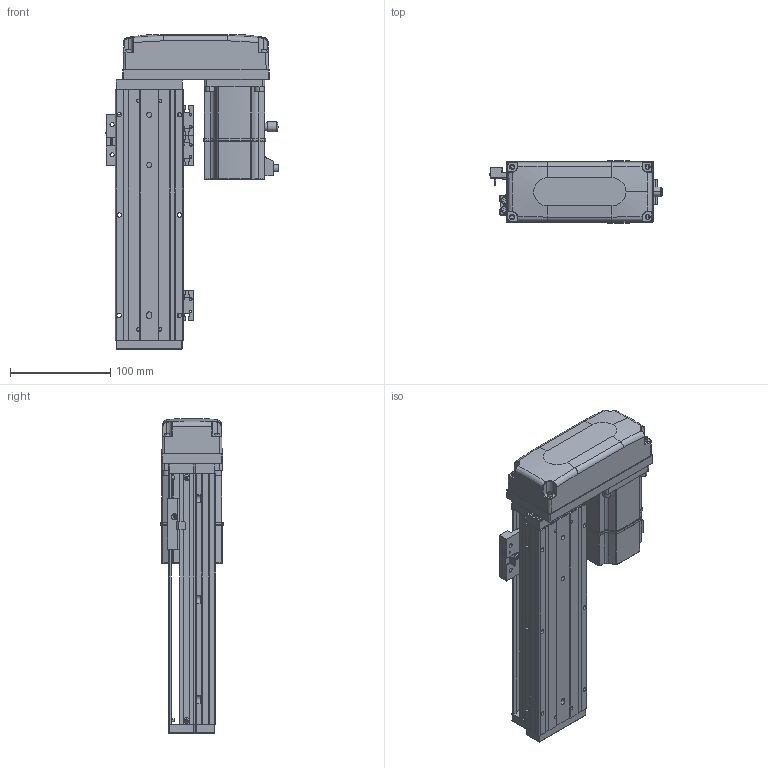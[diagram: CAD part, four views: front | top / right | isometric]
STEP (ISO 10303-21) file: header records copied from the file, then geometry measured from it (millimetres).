
FILE_DESCRIPTION (( 'STEP AP203' ), '1' );
FILE_NAME ('KTHA60-150-BL-M20-C4L.step', '2022-12-16T01:31:28', ( '微软用户' ), ( '微软中国' ), 'SwSTEP 2.0', 'SolidWorks 2020', '' );
FILE_SCHEMA (( 'CONFIG_CONTROL_DESIGN' ));
Length unit declared in the file: millimetre
Products named in the file (17): EE_SX911P_R; KTHA60-002; CTHA60-017; BTH80-026; KTHA60-001_250; CTHA60-021; CTHA60-006-2_CTHA60-006-2; KTHA60-004; GBT 70.1-M4×16; _X2_4E0983F1_X0_200W_1; KTHA60-005; GBT77-2000M3-3; KTHA60-150-BL-M20-C4L; GB¨uT 70.2-M3¡Á5_M3¡Á6; GBT 70.1-M3℅6; GBT 70.3-M3℅6; CTHA60-016
Assembly tree (51 placements, depth 2):
  KTHA60-150-BL-M20-C4L
    KTHA60-001_250
    KTHA60-004
    KTHA60-005
    GB¨uT 70.2-M3¡Á5_M3¡Á6  x6
    GBT 70.3-M3℅6  x4
    EE_SX911P_R  x3
    CTHA60-017  x3
    CTHA60-021  x2
    GBT 70.1-M4×16  x8
    GBT77-2000M3-3  x6
    GBT 70.1-M3℅6  x10
    CTHA60-016  x2
    KTHA60-002
    BTH80-026
    CTHA60-006-2_CTHA60-006-2
    _X2_4E0983F1_X0_200W_1
Bounding box: 172.1 x 62.42 x 314 mm (x, y, z)
Volume: 947958.2 mm3; surface area: 249586 mm2
Topology: 54 solids, 54 shells, 2368 faces, 5605 edges, 3442 vertices
Faces by surface type: plane 1249, cylinder 626, cone 276, bspline 109, torus 92, sphere 16
Entity records: 42948 total; most frequent: CARTESIAN_POINT 10146, DIRECTION 6258, ORIENTED_EDGE 6258, EDGE_CURVE 3129, AXIS2_PLACEMENT_3D 2173, VERTEX_POINT 1951, LINE 1912, VECTOR 1912
